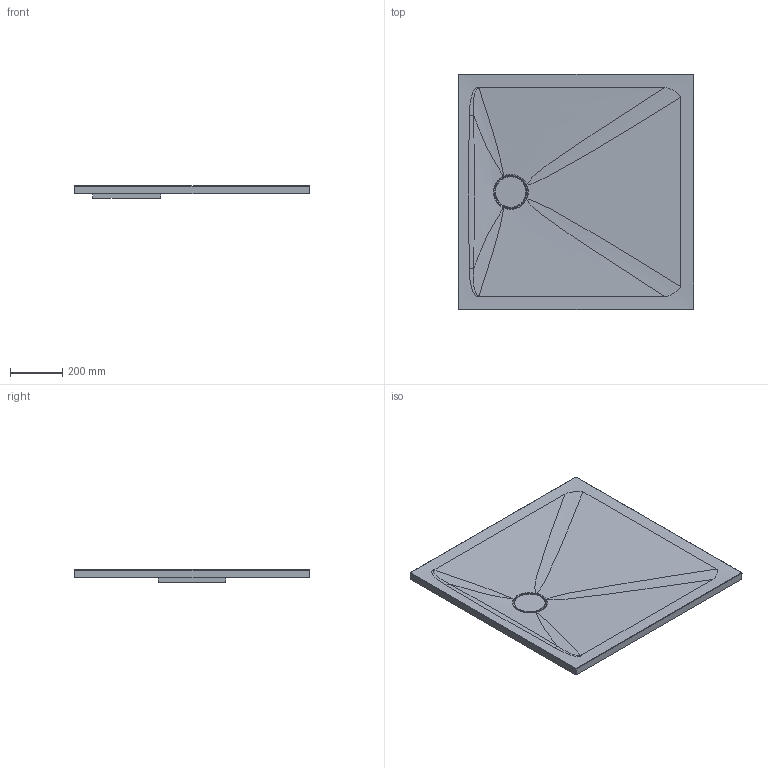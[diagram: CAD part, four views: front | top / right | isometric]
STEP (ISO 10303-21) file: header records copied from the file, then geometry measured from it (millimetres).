
FILE_DESCRIPTION (( 'STEP AP214' ), '1' );
FILE_NAME ('ARON 90x90.STEP', '2024-05-13T10:23:29', ( '' ), ( '' ), 'SwSTEP 2.0', 'SolidWorks 2021', '' );
FILE_SCHEMA (( 'AUTOMOTIVE_DESIGN' ));
Length unit declared in the file: millimetre
Products named in the file (1): ARON 90x90
Bounding box: 900 x 900 x 47.99 mm (x, y, z)
Volume: 20471598.7 mm3; surface area: 1765466.4 mm2
Topology: 2 solids, 2 shells, 75 faces, 173 edges, 103 vertices
Faces by surface type: bspline 39, cylinder 19, plane 17
Full cylindrical faces by diameter (mm): 9 x3, 90 x1, 119 x1
Entity records: 13765 total; most frequent: CARTESIAN_POINT 12394, ORIENTED_EDGE 316, DIRECTION 160, EDGE_CURVE 158, VERTEX_POINT 101, B_SPLINE_CURVE_WITH_KNOTS 92, EDGE_LOOP 91, FACE_OUTER_BOUND 83
